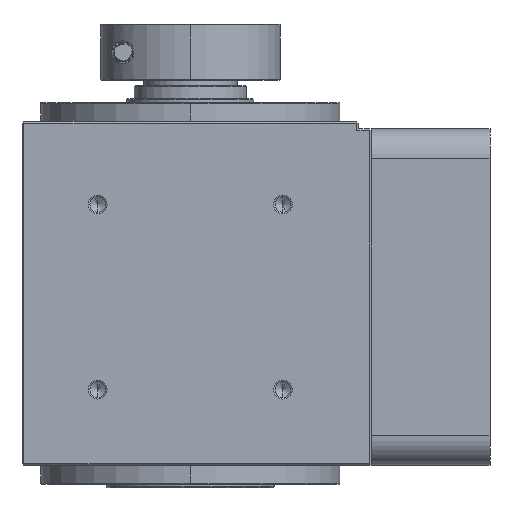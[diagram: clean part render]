
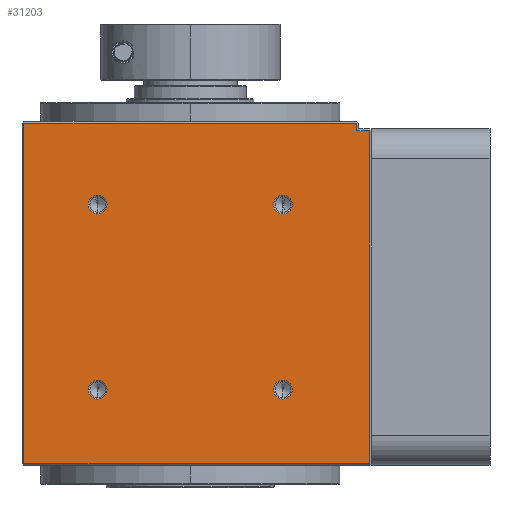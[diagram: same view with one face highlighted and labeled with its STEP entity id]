
A CAD part, left-side view. The second image highlights one B-rep face of the part: STEP entity #31203.
In plain terms, the highlighted planar face has unit normal (-1, 0, 0) as drawn and (1, 0, 0) by its records, which use the part's own axes.
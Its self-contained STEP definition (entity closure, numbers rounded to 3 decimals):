
#41 = CARTESIAN_POINT ( 'NONE',  ( 45., -44.5, 7.5 ) ) ;
#368 = CARTESIAN_POINT ( 'NONE',  ( 45., 24.749, 27.251 ) ) ;
#586 = VERTEX_POINT ( 'NONE', #6615 ) ;
#618 = AXIS2_PLACEMENT_3D ( 'NONE', #31517, #31396, #28653 ) ;
#647 = CARTESIAN_POINT ( 'NONE',  ( 45., -24.749, 76.749 ) ) ;
#1137 = DIRECTION ( 'NONE',  ( 0., 0., -1. ) ) ;
#1427 = AXIS2_PLACEMENT_3D ( 'NONE', #647, #12019, #9441 ) ;
#1726 = ORIENTED_EDGE ( 'NONE', *, *, #7124, .F. ) ;
#1789 = ORIENTED_EDGE ( 'NONE', *, *, #22796, .T. ) ;
#1840 = EDGE_CURVE ( 'NONE', #10997, #7801, #26099, .T. ) ;
#1875 = EDGE_CURVE ( 'NONE', #2805, #15610, #4001, .T. ) ;
#2048 = DIRECTION ( 'NONE',  ( 1., 0., 0. ) ) ;
#2313 = ORIENTED_EDGE ( 'NONE', *, *, #11317, .T. ) ;
#2805 = VERTEX_POINT ( 'NONE', #15525 ) ;
#2806 = ORIENTED_EDGE ( 'NONE', *, *, #20355, .T. ) ;
#3375 = LINE ( 'NONE', #17468, #13103 ) ;
#3455 = CIRCLE ( 'NONE', #32751, 2.5 ) ;
#3801 = VECTOR ( 'NONE', #33597, 1000. ) ;
#3856 = CARTESIAN_POINT ( 'NONE',  ( 45., -47.93, 102. ) ) ;
#4001 = CIRCLE ( 'NONE', #1427, 2.5 ) ;
#4349 = VECTOR ( 'NONE', #36270, 1000. ) ;
#4701 = CIRCLE ( 'NONE', #5240, 2.5 ) ;
#4777 = CARTESIAN_POINT ( 'NONE',  ( 45., -24.749, 27.251 ) ) ;
#4841 = EDGE_LOOP ( 'NONE', ( #26229, #29347 ) ) ;
#4905 = CARTESIAN_POINT ( 'NONE',  ( 45., -44.5, 102. ) ) ;
#5240 = AXIS2_PLACEMENT_3D ( 'NONE', #13433, #19583, #22313 ) ;
#6615 = CARTESIAN_POINT ( 'NONE',  ( 45., -44.5, 5.5 ) ) ;
#6794 = CARTESIAN_POINT ( 'NONE',  ( 45., 24.749, 24.751 ) ) ;
#7122 = EDGE_LOOP ( 'NONE', ( #35131, #11544 ) ) ;
#7124 = EDGE_CURVE ( 'NONE', #15610, #2805, #35219, .T. ) ;
#7366 = CIRCLE ( 'NONE', #24260, 2.5 ) ;
#7712 = CARTESIAN_POINT ( 'NONE',  ( 45., -45., 7.5 ) ) ;
#7801 = VERTEX_POINT ( 'NONE', #7867 ) ;
#7867 = CARTESIAN_POINT ( 'NONE',  ( 45., 24.749, 29.751 ) ) ;
#7947 = AXIS2_PLACEMENT_3D ( 'NONE', #15240, #9817, #35552 ) ;
#8234 = LINE ( 'NONE', #13771, #3801 ) ;
#8274 = CARTESIAN_POINT ( 'NONE',  ( 45., 24.749, 27.251 ) ) ;
#8673 = DIRECTION ( 'NONE',  ( 0., 0., -1. ) ) ;
#8824 = EDGE_CURVE ( 'NONE', #12906, #32174, #11837, .T. ) ;
#8982 = CARTESIAN_POINT ( 'NONE',  ( 45., 44.5, 102. ) ) ;
#8986 = CARTESIAN_POINT ( 'NONE',  ( 45., -24.749, 24.751 ) ) ;
#9441 = DIRECTION ( 'NONE',  ( 0., 0., -1. ) ) ;
#9817 = DIRECTION ( 'NONE',  ( -1., 0., 0. ) ) ;
#10108 = EDGE_LOOP ( 'NONE', ( #33588, #1789, #30264, #25416, #2313, #2806 ) ) ;
#10353 = CARTESIAN_POINT ( 'NONE',  ( 45., 24.749, 79.249 ) ) ;
#10579 = DIRECTION ( 'NONE',  ( 0., 0., -1. ) ) ;
#10606 = VERTEX_POINT ( 'NONE', #33638 ) ;
#10688 = DIRECTION ( 'NONE',  ( 0., 0., -1. ) ) ;
#10997 = VERTEX_POINT ( 'NONE', #6794 ) ;
#11317 = EDGE_CURVE ( 'NONE', #28177, #33364, #8234, .T. ) ;
#11493 = CARTESIAN_POINT ( 'NONE',  ( 45., -24.749, 74.249 ) ) ;
#11544 = ORIENTED_EDGE ( 'NONE', *, *, #15964, .F. ) ;
#11644 = EDGE_CURVE ( 'NONE', #586, #14413, #3375, .T. ) ;
#11837 = LINE ( 'NONE', #7712, #4349 ) ;
#11917 = FACE_BOUND ( 'NONE', #32851, .T. ) ;
#12019 = DIRECTION ( 'NONE',  ( 1., 0., 0. ) ) ;
#12906 = VERTEX_POINT ( 'NONE', #22177 ) ;
#13103 = VECTOR ( 'NONE', #23166, 1000. ) ;
#13433 = CARTESIAN_POINT ( 'NONE',  ( 45., 24.749, 76.749 ) ) ;
#13771 = CARTESIAN_POINT ( 'NONE',  ( 45., -48.43, 96.5 ) ) ;
#14018 = VECTOR ( 'NONE', #1137, 1000. ) ;
#14061 = DIRECTION ( 'NONE',  ( 1., 0., 0. ) ) ;
#14227 = CIRCLE ( 'NONE', #14753, 2.5 ) ;
#14413 = VERTEX_POINT ( 'NONE', #27577 ) ;
#14429 = DIRECTION ( 'NONE',  ( 0., 0., -1. ) ) ;
#14584 = DIRECTION ( 'NONE',  ( 1., 0., 0. ) ) ;
#14753 = AXIS2_PLACEMENT_3D ( 'NONE', #4777, #2048, #10688 ) ;
#15240 = CARTESIAN_POINT ( 'NONE',  ( 45., -45., 102. ) ) ;
#15525 = CARTESIAN_POINT ( 'NONE',  ( 45., -24.749, 79.249 ) ) ;
#15610 = VERTEX_POINT ( 'NONE', #11493 ) ;
#15964 = EDGE_CURVE ( 'NONE', #21130, #31939, #23956, .T. ) ;
#16390 = DIRECTION ( 'NONE',  ( 0., 0., -1. ) ) ;
#16482 = VECTOR ( 'NONE', #20472, 1000. ) ;
#17468 = CARTESIAN_POINT ( 'NONE',  ( 45., 45., 5.5 ) ) ;
#18139 = CARTESIAN_POINT ( 'NONE',  ( 45., -24.749, 29.751 ) ) ;
#18160 = CARTESIAN_POINT ( 'NONE',  ( 45., 44.5, 96.5 ) ) ;
#18618 = EDGE_CURVE ( 'NONE', #34345, #10606, #3455, .T. ) ;
#18882 = CARTESIAN_POINT ( 'NONE',  ( 45., -24.749, 27.251 ) ) ;
#19424 = FACE_BOUND ( 'NONE', #7122, .T. ) ;
#19583 = DIRECTION ( 'NONE',  ( 1., 0., 0. ) ) ;
#20355 = EDGE_CURVE ( 'NONE', #33364, #12906, #33545, .T. ) ;
#20472 = DIRECTION ( 'NONE',  ( 0., 0., 1. ) ) ;
#21130 = VERTEX_POINT ( 'NONE', #18139 ) ;
#21847 = DIRECTION ( 'NONE',  ( 1., 0., 0. ) ) ;
#22177 = CARTESIAN_POINT ( 'NONE',  ( 45., -47.93, 7.5 ) ) ;
#22231 = LINE ( 'NONE', #8982, #16482 ) ;
#22313 = DIRECTION ( 'NONE',  ( 0., 0., -1. ) ) ;
#22391 = EDGE_CURVE ( 'NONE', #7801, #10997, #7366, .T. ) ;
#22769 = ORIENTED_EDGE ( 'NONE', *, *, #1875, .F. ) ;
#22796 = EDGE_CURVE ( 'NONE', #32174, #586, #33439, .T. ) ;
#23166 = DIRECTION ( 'NONE',  ( 0., 1., 0. ) ) ;
#23867 = FACE_BOUND ( 'NONE', #4841, .T. ) ;
#23956 = CIRCLE ( 'NONE', #30118, 2.5 ) ;
#24260 = AXIS2_PLACEMENT_3D ( 'NONE', #8274, #14061, #14429 ) ;
#24536 = EDGE_CURVE ( 'NONE', #14413, #28177, #22231, .T. ) ;
#25072 = DIRECTION ( 'NONE',  ( 0., 0., -1. ) ) ;
#25416 = ORIENTED_EDGE ( 'NONE', *, *, #24536, .T. ) ;
#25726 = EDGE_LOOP ( 'NONE', ( #34847, #32530 ) ) ;
#26099 = CIRCLE ( 'NONE', #32483, 2.5 ) ;
#26229 = ORIENTED_EDGE ( 'NONE', *, *, #36487, .F. ) ;
#26853 = CARTESIAN_POINT ( 'NONE',  ( 45., -47.93, 96.5 ) ) ;
#27577 = CARTESIAN_POINT ( 'NONE',  ( 45., 44.5, 5.5 ) ) ;
#28102 = VECTOR ( 'NONE', #10579, 1000. ) ;
#28177 = VERTEX_POINT ( 'NONE', #18160 ) ;
#28653 = DIRECTION ( 'NONE',  ( 0., 0., -1. ) ) ;
#28982 = EDGE_CURVE ( 'NONE', #31939, #21130, #14227, .T. ) ;
#29347 = ORIENTED_EDGE ( 'NONE', *, *, #18618, .F. ) ;
#30118 = AXIS2_PLACEMENT_3D ( 'NONE', #18882, #33251, #25072 ) ;
#30264 = ORIENTED_EDGE ( 'NONE', *, *, #11644, .T. ) ;
#30291 = CARTESIAN_POINT ( 'NONE',  ( 45., 24.749, 76.749 ) ) ;
#31203 = ADVANCED_FACE ( 'NONE', ( #31865, #19424, #11917, #23867, #35853 ), #35300, .F. ) ;
#31396 = DIRECTION ( 'NONE',  ( 1., 0., 0. ) ) ;
#31517 = CARTESIAN_POINT ( 'NONE',  ( 45., -24.749, 76.749 ) ) ;
#31865 = FACE_OUTER_BOUND ( 'NONE', #10108, .T. ) ;
#31939 = VERTEX_POINT ( 'NONE', #8986 ) ;
#32174 = VERTEX_POINT ( 'NONE', #41 ) ;
#32483 = AXIS2_PLACEMENT_3D ( 'NONE', #368, #14584, #8673 ) ;
#32530 = ORIENTED_EDGE ( 'NONE', *, *, #22391, .F. ) ;
#32751 = AXIS2_PLACEMENT_3D ( 'NONE', #30291, #21847, #16390 ) ;
#32851 = EDGE_LOOP ( 'NONE', ( #1726, #22769 ) ) ;
#33251 = DIRECTION ( 'NONE',  ( 1., 0., 0. ) ) ;
#33364 = VERTEX_POINT ( 'NONE', #26853 ) ;
#33439 = LINE ( 'NONE', #4905, #28102 ) ;
#33545 = LINE ( 'NONE', #3856, #14018 ) ;
#33588 = ORIENTED_EDGE ( 'NONE', *, *, #8824, .T. ) ;
#33597 = DIRECTION ( 'NONE',  ( 0., -1., 0. ) ) ;
#33638 = CARTESIAN_POINT ( 'NONE',  ( 45., 24.749, 74.249 ) ) ;
#34345 = VERTEX_POINT ( 'NONE', #10353 ) ;
#34847 = ORIENTED_EDGE ( 'NONE', *, *, #1840, .F. ) ;
#35131 = ORIENTED_EDGE ( 'NONE', *, *, #28982, .F. ) ;
#35219 = CIRCLE ( 'NONE', #618, 2.5 ) ;
#35300 = PLANE ( 'NONE',  #7947 ) ;
#35552 = DIRECTION ( 'NONE',  ( 0., -1., 0. ) ) ;
#35853 = FACE_BOUND ( 'NONE', #25726, .T. ) ;
#36270 = DIRECTION ( 'NONE',  ( 0., 1., 0. ) ) ;
#36487 = EDGE_CURVE ( 'NONE', #10606, #34345, #4701, .T. ) ;
